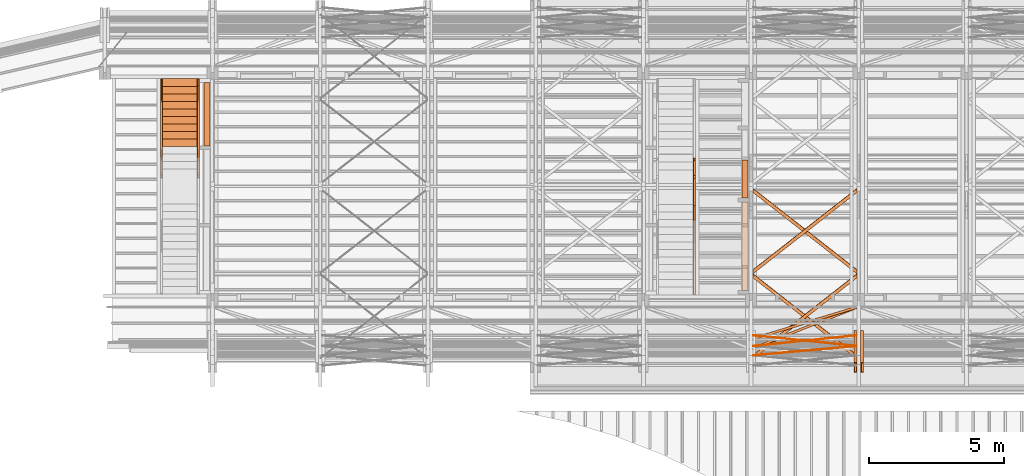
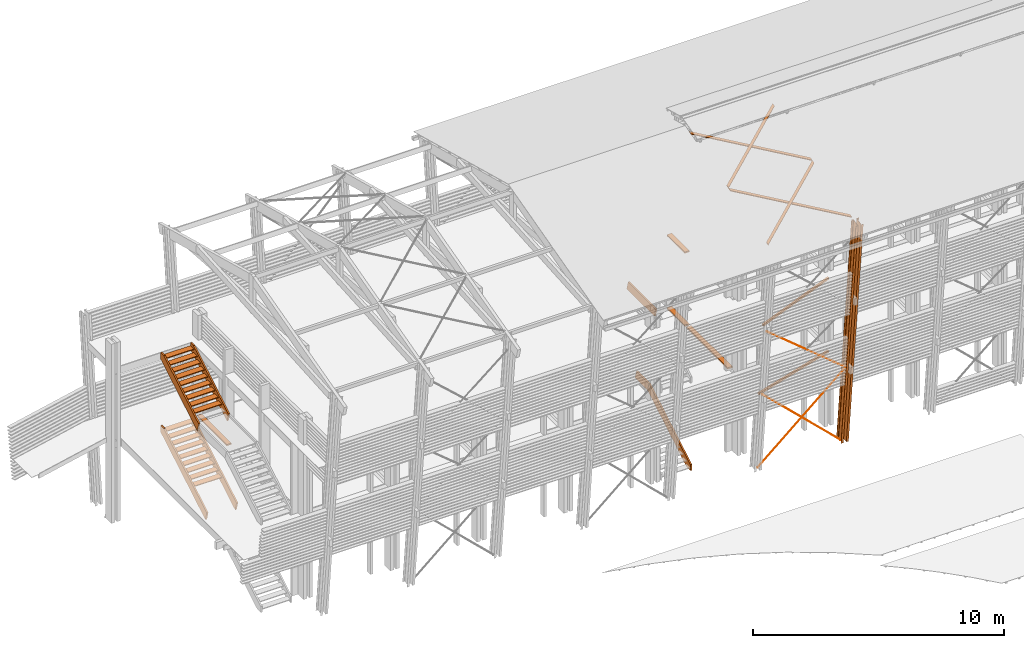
# One storey, part 38 of 48: 40 proxies.
"""IFC2X3 building model written with IfcOpenShell, lengths in metres."""

import ifcopenshell
import ifcopenshell.guid

model = None  # the IFC model being written
_history = None  # IfcOwnerHistory: only IFC2X3 demands one
_inside = {}  # id of a spatial element -> (the spatial element, [elements in it])
_under = {}  # id of a project, library or spatial element -> (it, [spatial elements below it])
_declared = {}  # id of a project -> (the project, [libraries it declares])
_typed = {}  # id of a type object -> (the type object, [elements of that type])
_made_of = {}  # id of a material, layer set ... -> (it, [elements and type objects made of it])


def new_model(schema):
    """Start an empty IFC model of exactly this schema.

    Asked for "IFC4X3", IfcOpenShell would pick the latest addendum, in which some entities
    have other attributes; the version numbers below select the first issue.
    IFC2X3 requires an IfcOwnerHistory on every rooted entity: one is made here for all.
    """
    global model, _history
    if schema == "IFC4X3":
        model = ifcopenshell.file(schema_version=(4, 3, 0, 0))
    else:
        model = ifcopenshell.file(schema=schema)
    _inside.clear()
    _under.clear()
    _declared.clear()
    _typed.clear()
    _made_of.clear()
    _history = None
    if model.schema == "IFC2X3":
        org = make("IfcOrganization", Name="unknown")
        user = make(
            "IfcPersonAndOrganization",
            ThePerson=make("IfcPerson", FamilyName="unknown"),
            TheOrganization=org,
        )
        app = make(
            "IfcApplication",
            ApplicationDeveloper=org,
            Version="unknown",
            ApplicationFullName="unknown",
            ApplicationIdentifier="unknown",
        )
        _history = make(
            "IfcOwnerHistory",
            OwningUser=user,
            OwningApplication=app,
            ChangeAction="ADDED",
            CreationDate=0,
        )
    return model


def make(cls, **values):
    """One entity of the class cls with the attributes given. An attribute that is None is left unset."""
    return model.create_entity(
        cls, **{name: value for name, value in values.items() if value is not None}
    )


def rooted(cls, **values):
    """An entity with a GlobalId (a new one), such as an element, a storey or a relation."""
    return make(cls, GlobalId=ifcopenshell.guid.new(), OwnerHistory=_history, **values)


def si_unit(unit_type, name, prefix=None):
    """IfcSIUnit, for example si_unit("LENGTHUNIT", "METRE", prefix="MILLI")."""
    return make("IfcSIUnit", UnitType=unit_type, Prefix=prefix, Name=name)


def assignment(units):
    """IfcUnitAssignment: the units of a project."""
    return None if units is None else make("IfcUnitAssignment", Units=units)


def point(xyz):
    """IfcCartesianPoint."""
    return None if xyz is None else make("IfcCartesianPoint", Coordinates=xyz)


def direction(xyz):
    """IfcDirection."""
    return None if xyz is None else make("IfcDirection", DirectionRatios=xyz)


def frame(location, z_axis=None, x_axis=None):
    """IfcAxis2Placement3D, a coordinate frame: its origin and axes. An axis left out is left unset."""
    return make(
        "IfcAxis2Placement3D",
        Location=point(location),
        Axis=direction(z_axis),
        RefDirection=direction(x_axis),
    )


def origin_with_axes():
    """The frame at (0, 0, 0) with the z axis (0, 0, 1) and the x axis (1, 0, 0) written out."""
    return frame((0.0, 0.0, 0.0), z_axis=(0.0, 0.0, 1.0), x_axis=(1.0, 0.0, 0.0))


def place(relative_to, where):
    """IfcLocalPlacement: puts the frame where relative to a parent placement (None: the world)."""
    return make(
        "IfcLocalPlacement", PlacementRelTo=relative_to, RelativePlacement=where
    )


def context(
    kind, dimensions, precision=None, world=None, true_north=None, identifier=None
):
    """IfcGeometricRepresentationContext, for example the 3D "Model" context."""
    return make(
        "IfcGeometricRepresentationContext",
        ContextIdentifier=identifier,
        ContextType=kind,
        CoordinateSpaceDimension=dimensions,
        Precision=precision,
        WorldCoordinateSystem=world,
        TrueNorth=true_north,
    )


def subcontext(parent, identifier, kind, view, scale=None):
    """IfcGeometricRepresentationSubContext, for example "Body" below "Model"."""
    return make(
        "IfcGeometricRepresentationSubContext",
        ContextIdentifier=identifier,
        ContextType=kind,
        ParentContext=parent,
        TargetScale=scale,
        TargetView=view,
    )


def project(units=None, contexts=None):
    """IfcProject with its units and contexts."""
    return rooted(
        "IfcProject",
        Name="project",
        RepresentationContexts=contexts,
        UnitsInContext=assignment(units),
    )


def spatial(cls, under=None, at=None, **own):
    """A site, building, storey or space (cls), placed at a placement, below another one or the project."""
    s = rooted(cls, ObjectPlacement=at, **own)
    if under is not None:
        _under.setdefault(under.id(), (under, []))[1].append(s)
    return s


def faces_of(points, faces, orient=None, outer=None):
    """IfcFace entities. A face is a list of loops; a loop is a list of indices into points, from 0.

    orient and outer hold one flag for each loop. By default every Orientation is true, the
    first loop of a face is its IfcFaceOuterBound and the others are IfcFaceBound.
    """
    made = []
    for i, loops in enumerate(faces):
        bounds = []
        for j, loop in enumerate(loops):
            is_outer = j == 0 if outer is None else outer[i][j]
            bounds.append(
                make(
                    "IfcFaceOuterBound" if is_outer else "IfcFaceBound",
                    Bound=make("IfcPolyLoop", Polygon=[points[k] for k in loop]),
                    Orientation=True if orient is None else orient[i][j],
                )
            )
        made.append(make("IfcFace", Bounds=bounds))
    return made


def faceted_brep(points, faces, orient=None, outer=None, voids=None):
    """IfcFacetedBrep: a solid bounded by flat faces; with voids (closed shells), ...WithVoids."""
    shared = [point(p) for p in points]
    hull = make("IfcClosedShell", CfsFaces=faces_of(shared, faces, orient, outer))
    if voids is None:
        return make("IfcFacetedBrep", Outer=hull)
    return make(
        "IfcFacetedBrepWithVoids",
        Outer=hull,
        Voids=[
            make(cls, CfsFaces=faces_of(shared, fs, o, b)) for cls, fs, o, b in voids
        ],
    )


def shape(context_of_items, identifier, shape_type, items):
    """IfcShapeRepresentation: the items that make up one representation, for example the "Body"."""
    return make(
        "IfcShapeRepresentation",
        ContextOfItems=context_of_items,
        RepresentationIdentifier=identifier,
        RepresentationType=shape_type,
        Items=items,
    )


def material(Name=None, Category=None):
    """IfcMaterial."""
    return make("IfcMaterial", Name=Name, Category=Category)


def made_of(thing, what):
    """Note that an element or type object is made of a material, layer set ...; save() writes the relation."""
    if what is not None:
        _made_of.setdefault(what.id(), (what, []))[1].append(thing)
    return thing


def element(
    cls,
    number,
    at=None,
    inside=None,
    cuts=None,
    type_object=None,
    material=None,
    context=None,
    identifier="Body",
    shape_type=None,
    held_by="IfcProductDefinitionShape",
    body=None,
    shapes=None,
    **own,
):
    """One element of the class cls, such as IfcWall. Its Tag is "e" and its number.

    at: its placement. inside: the storey or other place that contains it. cuts: it is an
    opening in that element (IfcRelVoidsElement). A single representation is given by context,
    identifier, shape_type and body (its items); several are given by shapes. held_by: the class
    of the entity that holds the representations. save() writes the other relations.
    """
    e = rooted(cls, Tag="e%d" % number, ObjectPlacement=at, **own)
    if body is not None:
        shapes = [shape(context, identifier, shape_type, body)]
    if shapes is not None:
        e.Representation = make(held_by, Representations=shapes)
    if inside is not None:
        _inside.setdefault(inside.id(), (inside, []))[1].append(e)
    if cuts is not None:
        rooted(
            "IfcRelVoidsElement", RelatingBuildingElement=cuts, RelatedOpeningElement=e
        )
    if type_object is not None:
        _typed.setdefault(type_object.id(), (type_object, []))[1].append(e)
    return made_of(e, material)


def aggregate(whole, parts):
    """IfcRelAggregates: a whole, such as a stair, and the parts it consists of."""
    return rooted("IfcRelAggregates", RelatingObject=whole, RelatedObjects=parts)


def save(model, path):
    """Write the relations noted so far, then the file.

    IfcRelAggregates (storeys below a building ...), IfcRelContainedInSpatialStructure (elements
    in a storey), IfcRelDefinesByType, IfcRelAssociatesMaterial and IfcRelDeclares: one each for
    every whole, place, type object, material and project.
    """
    for whole, parts in _under.values():
        aggregate(whole, parts)
    for where, things in _inside.values():
        rooted(
            "IfcRelContainedInSpatialStructure",
            RelatedElements=things,
            RelatingStructure=where,
        )
    for kind, things in _typed.values():
        rooted("IfcRelDefinesByType", RelatedObjects=things, RelatingType=kind)
    for what, things in _made_of.values():
        rooted("IfcRelAssociatesMaterial", RelatedObjects=things, RelatingMaterial=what)
    for by, libraries in _declared.values():
        rooted("IfcRelDeclares", RelatingContext=by, RelatedDefinitions=libraries)
    model.write(path)


model = new_model("IFC2X3")

# Units and contexts
model_context = context("Model", 3, precision=1e-06, world=origin_with_axes(), true_north=direction((0.0, 1.0, 0.0)))
body_context = subcontext(model_context, "Body", "Model", "MODEL_VIEW")
ifc_project = project(units=[si_unit("LENGTHUNIT", "METRE"), si_unit("AREAUNIT", "SQUARE_METRE"), si_unit("VOLUMEUNIT", "CUBIC_METRE"), si_unit("PLANEANGLEUNIT", "RADIAN")], contexts=[model_context])

# Site, building, storey
site_placement = place(None, origin_with_axes())
site = spatial("IfcSite", under=ifc_project, at=site_placement, CompositionType="ELEMENT")
building_placement = place(site_placement, origin_with_axes())
building = spatial("IfcBuilding", under=site, at=building_placement, Name="Building 1", CompositionType="ELEMENT")
storey_placement = place(building_placement, origin_with_axes())
storey = spatial("IfcBuildingStorey", under=building, at=storey_placement, Name="Storey 1", CompositionType="ELEMENT", Elevation=0.0)

# Proxies
ifc_material_1 = material(Name="Acier")
proxy_1_placement = place(storey_placement, frame((49.4057441, -195.1364145, 4.089), z_axis=(0.6523288, -0.0792259, 0.753784), x_axis=(-0.7579361, -0.0681869, 0.6487553)))
element("IfcBuildingElementProxy", 1, at=proxy_1_placement, inside=storey, material=ifc_material_1, Name="CVLP", context=body_context, shape_type="Brep", body=[
    faceted_brep([(5.0558353, -0.0093969, 0.0034202), (0.0, -0.01, 0.0), (5.0558353, -0.01, 0.0), (0.0, -0.0093969, -0.0034202), (5.0558353, -0.0093969, -0.0034202), (0.0, -0.0076604, -0.0064279), (5.0558353, -0.0076604, -0.0064279), (0.0, -0.005, -0.0086603), (5.0558353, -0.005, -0.0086603), (0.0, -0.0017365, -0.0098481), (5.0558353, -0.0017365, -0.0098481), (0.0, 0.0017365, -0.0098481), (5.0558353, 0.0017365, -0.0098481), (0.0, 0.005, -0.0086603), (5.0558353, 0.005, -0.0086603), (0.0, 0.0076604, -0.0064279), (5.0558353, 0.0076604, -0.0064279), (0.0, 0.0093969, -0.0034202), (5.0558353, 0.0093969, -0.0034202), (0.0, 0.01, 0.0), (5.0558353, 0.01, 0.0), (0.0, 0.0093969, 0.0034202), (5.0558353, 0.0093969, 0.0034202), (0.0, 0.0076604, 0.0064279), (5.0558353, 0.0076604, 0.0064279), (0.0, 0.005, 0.0086603), (5.0558353, 0.005, 0.0086603), (0.0, 0.0017365, 0.0098481), (5.0558353, 0.0017365, 0.0098481), (0.0, -0.0017365, 0.0098481), (5.0558353, -0.0017365, 0.0098481), (0.0, -0.005, 0.0086603), (5.0558353, -0.005, 0.0086603), (0.0, -0.0076604, 0.0064279), (5.0558353, -0.0076604, 0.0064279), (0.0, -0.0093969, 0.0034202)], [[[0, 1, 2]], [[2, 1, 3]], [[2, 3, 4]], [[4, 3, 5]], [[4, 5, 6]], [[6, 5, 7]], [[6, 7, 8]], [[8, 7, 9]], [[8, 9, 10]], [[10, 9, 11]], [[10, 11, 12]], [[12, 11, 13]], [[12, 13, 14]], [[14, 13, 15]], [[14, 15, 16]], [[16, 15, 17]], [[16, 17, 18]], [[18, 17, 19]], [[18, 19, 20]], [[20, 19, 21]], [[20, 21, 22]], [[22, 21, 23]], [[22, 23, 24]], [[24, 23, 25]], [[24, 25, 26]], [[26, 25, 27]], [[26, 27, 28]], [[28, 27, 29]], [[28, 29, 30]], [[30, 29, 31]], [[30, 31, 32]], [[32, 31, 33]], [[32, 33, 34]], [[34, 33, 35]], [[34, 35, 0]], [[0, 35, 1]], [[10, 12, 8]], [[8, 12, 14]], [[8, 14, 6]], [[6, 14, 16]], [[6, 16, 4]], [[4, 16, 18]], [[4, 18, 2]], [[2, 18, 20]], [[2, 20, 0]], [[0, 20, 22]], [[0, 22, 34]], [[34, 22, 24]], [[34, 24, 32]], [[32, 24, 26]], [[32, 26, 30]], [[30, 26, 28]], [[29, 27, 31]], [[31, 27, 25]], [[31, 25, 33]], [[33, 25, 23]], [[33, 23, 35]], [[35, 23, 21]], [[35, 21, 1]], [[1, 21, 19]], [[1, 19, 3]], [[3, 19, 17]], [[3, 17, 5]], [[5, 17, 15]], [[5, 15, 7]], [[7, 15, 13]], [[7, 13, 9]], [[9, 13, 11]]]),
])
proxy_2_placement = place(storey_placement, frame((49.4057433, -194.7381746, 0.3), z_axis=(0.7050562, -0.0741265, 0.7052666), x_axis=(-0.7091514, -0.0736984, 0.7011938)))
element("IfcBuildingElementProxy", 2, at=proxy_2_placement, inside=storey, material=ifc_material_1, Name="CVLP", context=body_context, shape_type="Brep", body=[
    faceted_brep([(5.4036414, 0.0093969, -0.0034202), (0.0, 0.01, 0.0), (5.4036414, 0.01, 0.0), (0.0, 0.0093969, 0.0034202), (5.4036414, 0.0093969, 0.0034202), (0.0, 0.0076604, 0.0064279), (5.4036414, 0.0076604, 0.0064279), (0.0, 0.005, 0.0086603), (5.4036414, 0.005, 0.0086603), (0.0, 0.0017365, 0.0098481), (5.4036414, 0.0017365, 0.0098481), (0.0, -0.0017365, 0.0098481), (5.4036414, -0.0017365, 0.0098481), (0.0, -0.005, 0.0086603), (5.4036414, -0.005, 0.0086603), (0.0, -0.0076604, 0.0064279), (5.4036414, -0.0076604, 0.0064279), (0.0, -0.0093969, 0.0034202), (5.4036414, -0.0093969, 0.0034202), (0.0, -0.01, 0.0), (5.4036414, -0.01, 0.0), (0.0, -0.0093969, -0.0034202), (5.4036414, -0.0093969, -0.0034202), (0.0, -0.0076604, -0.0064279), (5.4036414, -0.0076604, -0.0064279), (0.0, -0.005, -0.0086603), (5.4036414, -0.005, -0.0086603), (0.0, -0.0017365, -0.0098481), (5.4036414, -0.0017365, -0.0098481), (0.0, 0.0017365, -0.0098481), (5.4036414, 0.0017365, -0.0098481), (0.0, 0.005, -0.0086603), (5.4036414, 0.005, -0.0086603), (0.0, 0.0076604, -0.0064279), (5.4036414, 0.0076604, -0.0064279), (0.0, 0.0093969, -0.0034202)], [[[0, 1, 2]], [[2, 1, 3]], [[2, 3, 4]], [[4, 3, 5]], [[4, 5, 6]], [[6, 5, 7]], [[6, 7, 8]], [[8, 7, 9]], [[8, 9, 10]], [[10, 9, 11]], [[10, 11, 12]], [[12, 11, 13]], [[12, 13, 14]], [[14, 13, 15]], [[14, 15, 16]], [[16, 15, 17]], [[16, 17, 18]], [[18, 17, 19]], [[18, 19, 20]], [[20, 19, 21]], [[20, 21, 22]], [[22, 21, 23]], [[22, 23, 24]], [[24, 23, 25]], [[24, 25, 26]], [[26, 25, 27]], [[26, 27, 28]], [[28, 27, 29]], [[28, 29, 30]], [[30, 29, 31]], [[30, 31, 32]], [[32, 31, 33]], [[32, 33, 34]], [[34, 33, 35]], [[34, 35, 0]], [[0, 35, 1]], [[10, 12, 8]], [[8, 12, 14]], [[8, 14, 6]], [[6, 14, 16]], [[6, 16, 4]], [[4, 16, 18]], [[4, 18, 2]], [[2, 18, 20]], [[2, 20, 0]], [[0, 20, 22]], [[0, 22, 34]], [[34, 22, 24]], [[34, 24, 32]], [[32, 24, 26]], [[32, 26, 30]], [[30, 26, 28]], [[29, 27, 31]], [[31, 27, 25]], [[31, 25, 33]], [[33, 25, 23]], [[33, 23, 35]], [[35, 23, 21]], [[35, 21, 1]], [[1, 21, 19]], [[1, 19, 3]], [[3, 19, 17]], [[3, 17, 5]], [[5, 17, 15]], [[5, 15, 7]], [[7, 15, 13]], [[7, 13, 9]], [[9, 13, 11]]]),
])
proxy_3_placement = place(storey_placement, frame((45.5737441, -194.7381746, 0.3), z_axis=(-0.7050562, -0.0741265, 0.7052666), x_axis=(0.7091514, -0.0736984, 0.7011938)))
element("IfcBuildingElementProxy", 3, at=proxy_3_placement, inside=storey, material=ifc_material_1, Name="CVLP", context=body_context, shape_type="Brep", body=[
    faceted_brep([(5.4036414, -0.0093969, 0.0034202), (0.0, -0.01, 0.0), (5.4036414, -0.01, 0.0), (0.0, -0.0093969, -0.0034202), (5.4036414, -0.0093969, -0.0034202), (0.0, -0.0076604, -0.0064279), (5.4036414, -0.0076604, -0.0064279), (0.0, -0.005, -0.0086603), (5.4036414, -0.005, -0.0086603), (0.0, -0.0017365, -0.0098481), (5.4036414, -0.0017365, -0.0098481), (0.0, 0.0017365, -0.0098481), (5.4036414, 0.0017365, -0.0098481), (0.0, 0.005, -0.0086603), (5.4036414, 0.005, -0.0086603), (0.0, 0.0076604, -0.0064279), (5.4036414, 0.0076604, -0.0064279), (0.0, 0.0093969, -0.0034202), (5.4036414, 0.0093969, -0.0034202), (0.0, 0.01, 0.0), (5.4036414, 0.01, 0.0), (0.0, 0.0093969, 0.0034202), (5.4036414, 0.0093969, 0.0034202), (0.0, 0.0076604, 0.0064279), (5.4036414, 0.0076604, 0.0064279), (0.0, 0.005, 0.0086603), (5.4036414, 0.005, 0.0086603), (0.0, 0.0017365, 0.0098481), (5.4036414, 0.0017365, 0.0098481), (0.0, -0.0017365, 0.0098481), (5.4036414, -0.0017365, 0.0098481), (0.0, -0.005, 0.0086603), (5.4036414, -0.005, 0.0086603), (0.0, -0.0076604, 0.0064279), (5.4036414, -0.0076604, 0.0064279), (0.0, -0.0093969, 0.0034202)], [[[0, 1, 2]], [[2, 1, 3]], [[2, 3, 4]], [[4, 3, 5]], [[4, 5, 6]], [[6, 5, 7]], [[6, 7, 8]], [[8, 7, 9]], [[8, 9, 10]], [[10, 9, 11]], [[10, 11, 12]], [[12, 11, 13]], [[12, 13, 14]], [[14, 13, 15]], [[14, 15, 16]], [[16, 15, 17]], [[16, 17, 18]], [[18, 17, 19]], [[18, 19, 20]], [[20, 19, 21]], [[20, 21, 22]], [[22, 21, 23]], [[22, 23, 24]], [[24, 23, 25]], [[24, 25, 26]], [[26, 25, 27]], [[26, 27, 28]], [[28, 27, 29]], [[28, 29, 30]], [[30, 29, 31]], [[30, 31, 32]], [[32, 31, 33]], [[32, 33, 34]], [[34, 33, 35]], [[34, 35, 0]], [[0, 35, 1]], [[10, 12, 8]], [[8, 12, 14]], [[8, 14, 6]], [[6, 14, 16]], [[6, 16, 4]], [[4, 16, 18]], [[4, 18, 2]], [[2, 18, 20]], [[2, 20, 0]], [[0, 20, 22]], [[0, 22, 34]], [[34, 22, 24]], [[34, 24, 32]], [[32, 24, 26]], [[32, 26, 30]], [[30, 26, 28]], [[29, 27, 31]], [[31, 27, 25]], [[31, 25, 33]], [[33, 25, 23]], [[33, 23, 35]], [[35, 23, 21]], [[35, 21, 1]], [[1, 21, 19]], [[1, 19, 3]], [[3, 19, 17]], [[3, 17, 5]], [[5, 17, 15]], [[5, 15, 7]], [[7, 15, 13]], [[7, 13, 9]], [[9, 13, 11]]]),
])
ifc_material_2 = material(Name="GL28h")
proxy_4_placement = place(storey_placement, frame((24.9647437, -188.8892391, 2.0173077), z_axis=(0.0, -0.5076923, 0.8615385), x_axis=(0.0, 0.8615385, 0.5076923)))
element("IfcBuildingElementProxy", 4, at=proxy_4_placement, inside=storey, material=ifc_material_2, Name="limon", context=body_context, shape_type="Brep", body=[
    faceted_brep([(0.0, 0.035, -0.2), (0.0, -0.035, -0.2), (0.1090909, -0.035, 0.2), (0.1090909, 0.035, 0.2), (4.1567645, -0.035, -0.2), (4.3165062, -0.035, 0.0710767), (4.0977273, -0.035, 0.2), (4.1567645, 0.035, -0.2), (4.0977273, 0.035, 0.2), (4.3165062, 0.035, 0.0710767)], [[[0, 1, 2, 3]], [[2, 1, 4, 5, 6]], [[1, 0, 7, 4]], [[0, 3, 8, 9, 7]], [[3, 2, 6, 8]], [[5, 9, 8, 6]], [[9, 5, 4, 7]]]),
])
proxy_5_placement = place(storey_placement, frame((49.6107437, -195.9301471, 11.6408612), z_axis=(0.0, 0.9945219, 0.1045285), x_axis=(0.0, 0.1045285, -0.9945219)))
element("IfcBuildingElementProxy", 5, at=proxy_5_placement, inside=storey, material=ifc_material_1, Name="Poteau", context=body_context, shape_type="Brep", body=[
    faceted_brep([(0.0556479, 0.0367655, -0.161347), (0.0548889, 0.0375, -0.156555), (0.0601861, 0.051, -0.19), (0.0052972, 0.0375, 0.156555), (0.0, 0.051, 0.19), (0.0045382, 0.0367655, 0.161347), (0.0038489, 0.0346296, 0.165699), (0.0592057, -0.051, -0.18381), (0.0579402, -0.0433995, -0.17582), (0.0601861, -0.051, -0.19), (0.0574199, 0.022299, -0.172535), (0.0572658, 0.0270483, -0.1715622), (0.0568935, 0.0312883, -0.1692116), (0.0588262, -0.0506328, -0.181414), (0.0584816, -0.0495648, -0.179238), (0.0582034, -0.0478941, -0.1774817), (0.0580172, -0.0457742, -0.1763064), (0.0563372, 0.0346296, -0.165699), (0.0032926, 0.0312883, 0.1692116), (0.0029203, 0.0270483, 0.1715622), (0.0027662, 0.022299, 0.172535), (0.0, -0.051, 0.19), (0.0022459, -0.0433995, 0.17582), (0.0009804, -0.051, 0.18381), (0.0013599, -0.0506328, 0.181414), (0.0021689, -0.0457742, 0.1763064), (0.0019827, -0.0478941, 0.1774817), (0.0017045, -0.0495648, 0.179238), (11.420672, 0.0375, -0.156555), (11.420672, 0.0367655, -0.161347), (11.420672, 0.0346296, -0.165699), (11.420672, 0.0312883, -0.1692116), (11.420672, 0.0270483, -0.1715622), (11.420672, 0.022299, -0.172535), (11.420672, -0.0433995, -0.17582), (11.420672, -0.0457742, -0.1763064), (11.420672, -0.0478941, -0.1774817), (11.420672, -0.0495648, -0.179238), (11.420672, -0.0506328, -0.181414), (11.420672, -0.051, -0.18381), (11.420672, -0.051, -0.19), (11.420672, 0.051, -0.19), (11.420672, 0.051, 0.19), (11.420672, -0.051, 0.19), (11.420672, -0.051, 0.18381), (11.420672, -0.0506328, 0.181414), (11.420672, -0.0495648, 0.179238), (11.420672, -0.0478941, 0.1774817), (11.420672, -0.0457742, 0.1763064), (11.420672, -0.0433995, 0.17582), (11.420672, 0.022299, 0.172535), (11.420672, 0.0270483, 0.1715622), (11.420672, 0.0312883, 0.1692116), (11.420672, 0.0346296, 0.165699), (11.420672, 0.0367655, 0.161347), (11.420672, 0.0375, 0.156555)], [[[0, 1, 2]], [[2, 1, 3]], [[2, 3, 4]], [[4, 3, 5]], [[4, 5, 6]], [[7, 8, 9]], [[9, 8, 10]], [[9, 10, 2]], [[2, 10, 11]], [[2, 11, 12]], [[7, 13, 8]], [[8, 13, 14]], [[8, 14, 15]], [[15, 16, 8]], [[12, 17, 2]], [[2, 17, 0]], [[6, 18, 4]], [[4, 18, 19]], [[4, 19, 20]], [[4, 20, 21]], [[21, 20, 22]], [[21, 22, 23]], [[23, 22, 24]], [[25, 26, 22]], [[22, 26, 27]], [[22, 27, 24]], [[1, 0, 28]], [[28, 0, 29]], [[0, 17, 29]], [[29, 17, 30]], [[17, 12, 30]], [[30, 12, 31]], [[12, 11, 31]], [[31, 11, 32]], [[11, 10, 32]], [[32, 10, 33]], [[10, 8, 33]], [[33, 8, 34]], [[8, 16, 34]], [[34, 16, 35]], [[16, 15, 35]], [[35, 15, 36]], [[15, 14, 36]], [[36, 14, 37]], [[14, 13, 37]], [[37, 13, 38]], [[13, 7, 38]], [[38, 7, 39]], [[7, 9, 39]], [[39, 9, 40]], [[9, 2, 40]], [[40, 2, 41]], [[4, 42, 2]], [[2, 42, 41]], [[43, 42, 21]], [[21, 42, 4]], [[21, 23, 43]], [[43, 23, 44]], [[23, 24, 44]], [[44, 24, 45]], [[24, 27, 45]], [[45, 27, 46]], [[27, 26, 46]], [[46, 26, 47]], [[26, 25, 47]], [[47, 25, 48]], [[25, 22, 48]], [[48, 22, 49]], [[22, 20, 49]], [[49, 20, 50]], [[20, 19, 50]], [[50, 19, 51]], [[19, 18, 51]], [[51, 18, 52]], [[18, 6, 52]], [[52, 6, 53]], [[6, 5, 53]], [[53, 5, 54]], [[5, 3, 54]], [[54, 3, 55]], [[3, 1, 55]], [[55, 1, 28]], [[53, 54, 42]], [[42, 54, 55]], [[42, 55, 41]], [[41, 55, 28]], [[41, 28, 29]], [[44, 49, 43]], [[43, 49, 50]], [[43, 50, 42]], [[42, 50, 51]], [[42, 51, 52]], [[44, 45, 49]], [[49, 45, 46]], [[49, 46, 47]], [[47, 48, 49]], [[52, 53, 42]], [[29, 30, 41]], [[41, 30, 31]], [[41, 31, 32]], [[32, 33, 41]], [[41, 33, 40]], [[33, 34, 40]], [[40, 34, 39]], [[34, 35, 39]], [[39, 35, 36]], [[39, 36, 37]], [[37, 38, 39]]]),
])
proxy_6_placement = place(storey_placement, frame((49.3687437, -195.9301471, 11.6408612), z_axis=(0.0, 0.9945219, 0.1045285), x_axis=(0.0, 0.1045285, -0.9945219)))
element("IfcBuildingElementProxy", 6, at=proxy_6_placement, inside=storey, material=ifc_material_1, Name="Poteau", context=body_context, shape_type="Brep", body=[
    faceted_brep([(0.0588262, 0.0506328, -0.181414), (0.0592057, 0.051, -0.18381), (0.0579402, 0.0433995, -0.17582), (0.0601861, 0.051, -0.19), (0.0574199, -0.022299, -0.172535), (0.0601861, -0.051, -0.19), (0.0572658, -0.0270483, -0.1715622), (0.0568935, -0.0312883, -0.1692116), (0.0038489, -0.0346296, 0.165699), (0.0045382, -0.0367655, 0.161347), (0.0, -0.051, 0.19), (0.0052972, -0.0375, 0.156555), (0.0548889, -0.0375, -0.156555), (0.0556479, -0.0367655, -0.161347), (0.0009804, 0.051, 0.18381), (0.0022459, 0.0433995, 0.17582), (0.0, 0.051, 0.19), (0.0027662, -0.022299, 0.172535), (0.0029203, -0.0270483, 0.1715622), (0.0032926, -0.0312883, 0.1692116), (0.0013599, 0.0506328, 0.181414), (0.0017045, 0.0495648, 0.179238), (0.0019827, 0.0478941, 0.1774817), (0.0021689, 0.0457742, 0.1763064), (0.0563372, -0.0346296, -0.165699), (0.0580172, 0.0457742, -0.1763064), (0.0582034, 0.0478941, -0.1774817), (0.0584816, 0.0495648, -0.179238), (11.420672, 0.0433995, 0.17582), (11.420672, 0.0457742, 0.1763064), (11.420672, 0.0478941, 0.1774817), (11.420672, 0.0495648, 0.179238), (11.420672, 0.0506328, 0.181414), (11.420672, 0.051, 0.18381), (11.420672, 0.051, 0.19), (11.420672, -0.051, 0.19), (11.420672, -0.051, -0.19), (11.420672, 0.051, -0.19), (11.420672, 0.051, -0.18381), (11.420672, 0.0506328, -0.181414), (11.420672, 0.0495648, -0.179238), (11.420672, 0.0478941, -0.1774817), (11.420672, 0.0457742, -0.1763064), (11.420672, 0.0433995, -0.17582), (11.420672, -0.022299, -0.172535), (11.420672, -0.0270483, -0.1715622), (11.420672, -0.0312883, -0.1692116), (11.420672, -0.0346296, -0.165699), (11.420672, -0.0367655, -0.161347), (11.420672, -0.0375, -0.156555), (11.420672, -0.0375, 0.156555), (11.420672, -0.0367655, 0.161347), (11.420672, -0.0346296, 0.165699), (11.420672, -0.0312883, 0.1692116), (11.420672, -0.0270483, 0.1715622), (11.420672, -0.022299, 0.172535)], [[[0, 1, 2]], [[2, 1, 3]], [[2, 3, 4]], [[4, 3, 5]], [[4, 5, 6]], [[6, 5, 7]], [[8, 9, 10]], [[10, 9, 11]], [[10, 11, 5]], [[5, 11, 12]], [[5, 12, 13]], [[14, 15, 16]], [[16, 15, 17]], [[16, 17, 10]], [[10, 17, 18]], [[10, 18, 19]], [[14, 20, 15]], [[15, 20, 21]], [[15, 21, 22]], [[22, 23, 15]], [[19, 8, 10]], [[13, 24, 5]], [[5, 24, 7]], [[25, 26, 2]], [[2, 26, 27]], [[2, 27, 0]], [[15, 23, 28]], [[28, 23, 29]], [[23, 22, 29]], [[29, 22, 30]], [[22, 21, 30]], [[30, 21, 31]], [[21, 20, 31]], [[31, 20, 32]], [[20, 14, 32]], [[32, 14, 33]], [[16, 34, 14]], [[14, 34, 33]], [[10, 5, 35]], [[35, 5, 36]], [[5, 3, 36]], [[36, 3, 37]], [[1, 38, 3]], [[3, 38, 37]], [[1, 0, 38]], [[38, 0, 39]], [[0, 27, 39]], [[39, 27, 40]], [[27, 26, 40]], [[40, 26, 41]], [[26, 25, 41]], [[41, 25, 42]], [[25, 2, 42]], [[42, 2, 43]], [[4, 44, 2]], [[2, 44, 43]], [[4, 6, 44]], [[44, 6, 45]], [[6, 7, 45]], [[45, 7, 46]], [[7, 24, 46]], [[46, 24, 47]], [[24, 13, 47]], [[47, 13, 48]], [[13, 12, 48]], [[48, 12, 49]], [[11, 50, 12]], [[12, 50, 49]], [[11, 9, 50]], [[50, 9, 51]], [[9, 8, 51]], [[51, 8, 52]], [[8, 19, 52]], [[52, 19, 53]], [[19, 18, 53]], [[53, 18, 54]], [[18, 17, 54]], [[54, 17, 55]], [[15, 28, 17]], [[17, 28, 55]], [[35, 34, 10]], [[10, 34, 16]], [[48, 49, 36]], [[36, 49, 50]], [[36, 50, 35]], [[35, 50, 51]], [[35, 51, 52]], [[41, 42, 38]], [[38, 42, 43]], [[38, 43, 37]], [[37, 43, 44]], [[37, 44, 36]], [[36, 44, 45]], [[36, 45, 46]], [[39, 40, 38]], [[38, 40, 41]], [[46, 47, 36]], [[36, 47, 48]], [[52, 53, 35]], [[35, 53, 54]], [[35, 54, 55]], [[35, 55, 34]], [[34, 55, 28]], [[34, 28, 33]], [[33, 28, 32]], [[29, 30, 28]], [[28, 30, 31]], [[28, 31, 32]]]),
])
ifc_material_3 = material(Name="Moabi")
proxy_7_placement = place(storey_placement, frame((24.9297437, -187.5864885, 2.785), z_axis=(0.0, 1.0, 0.0), x_axis=(-1.0, 0.0, 0.0)))
element("IfcBuildingElementProxy", 7, at=proxy_7_placement, inside=storey, material=ifc_material_3, Name="marche", context=body_context, shape_type="Brep", body=[
    faceted_brep([(0.0, 0.02, 0.14), (0.0, 0.02, -0.14), (0.0, -0.02, -0.14), (0.0, -0.02, 0.14), (1.3, 0.02, -0.14), (1.3, -0.02, -0.14), (1.3, 0.02, 0.14), (1.3, -0.02, 0.14)], [[[0, 1, 2, 3]], [[1, 4, 5, 2]], [[4, 6, 7, 5]], [[6, 0, 3, 7]], [[1, 0, 6, 4]], [[7, 3, 2, 5]]]),
])
proxy_8_placement = place(storey_placement, frame((43.3847437, -188.8077002, 2.045), z_axis=(0.0, 0.0, 1.0), x_axis=(0.0, -1.0, 0.0)))
element("IfcBuildingElementProxy", 8, at=proxy_8_placement, inside=storey, material=ifc_material_2, Name="limon", context=body_context, shape_type="Brep", body=[
    faceted_brep([(0.0, -0.035, -0.2), (0.1090909, -0.035, 0.2), (0.1090909, 0.035, 0.2), (0.0, 0.035, -0.2), (1.1122539, -0.035, 0.2), (1.1122539, 0.035, 0.2), (1.003163, -0.035, -0.2), (1.003163, 0.035, -0.2)], [[[0, 1, 2, 3]], [[2, 1, 4, 5]], [[1, 0, 6, 4]], [[5, 4, 6, 7]], [[0, 3, 7, 6]], [[3, 2, 5, 7]]]),
])
proxy_9_placement = place(storey_placement, frame((24.2797437, -187.5864881, 6.325), z_axis=(0.0, 1.0, 0.0), x_axis=(0.0, 0.0, 1.0)))
element("IfcBuildingElementProxy", 9, at=proxy_9_placement, inside=storey, material=ifc_material_3, Name="marche", context=body_context, shape_type="Brep", body=[
    faceted_brep([(0.04, 0.65, 0.14), (0.04, 0.65, -0.14), (0.0, 0.65, -0.14), (0.0, 0.65, 0.14), (0.04, -0.65, -0.14), (0.0, -0.65, -0.14), (0.04, -0.65, 0.14), (0.0, -0.65, 0.14)], [[[0, 1, 2, 3]], [[1, 4, 5, 2]], [[4, 6, 7, 5]], [[6, 0, 3, 7]], [[1, 0, 6, 4]], [[7, 3, 2, 5]]]),
])
proxy_10_placement = place(storey_placement, frame((43.3847437, -188.1428517, 5.985), z_axis=(0.0, 0.0, 1.0), x_axis=(0.0, -1.0, 0.0)))
element("IfcBuildingElementProxy", 10, at=proxy_10_placement, inside=storey, material=ifc_material_2, Name="limon", context=body_context, shape_type="Brep", body=[
    faceted_brep([(0.0, -0.035, -0.2), (0.1090909, -0.035, 0.2), (0.1090909, 0.035, 0.2), (0.0, 0.035, -0.2), (2.3171028, -0.035, 0.2), (2.3171028, 0.035, 0.2), (2.2080118, -0.035, -0.2), (2.2080118, 0.035, -0.2)], [[[0, 1, 2, 3]], [[2, 1, 4, 5]], [[1, 0, 6, 4]], [[0, 3, 7, 6]], [[3, 2, 5, 7]], [[5, 4, 6, 7]]]),
])
proxy_11_placement = place(storey_placement, frame((49.4372017, -193.6870595, 3.984), z_axis=(-0.2909669, 0.9567331, 0.0), x_axis=(-0.9567331, -0.2909669, 0.0)))
element("IfcBuildingElementProxy", 11, at=proxy_11_placement, inside=storey, material=ifc_material_2, Name="CVLP", context=body_context, shape_type="Brep", body=[
    faceted_brep([(4.071058, -0.045, -0.045), (4.071058, -0.045, 0.045), (0.0, -0.045, 0.045), (0.0, -0.045, -0.045), (4.071058, 0.045, 0.045), (0.0, 0.045, 0.045), (4.071058, 0.045, -0.045), (0.0, 0.045, -0.045)], [[[0, 1, 2, 3]], [[1, 4, 5, 2]], [[4, 6, 7, 5]], [[6, 0, 3, 7]], [[1, 0, 6, 4]], [[7, 3, 2, 5]]]),
])
proxy_12_placement = place(storey_placement, frame((23.5947437, -188.2443902, 5.9573077), z_axis=(0.0, -0.5076923, 0.8615385), x_axis=(0.0, 0.8615385, 0.5076923)))
element("IfcBuildingElementProxy", 12, at=proxy_12_placement, inside=storey, material=ifc_material_2, Name="limon", context=body_context, shape_type="Brep", body=[
    faceted_brep([(3.3492424, -0.035, 0.2), (3.3492424, 0.035, 0.2), (0.1090909, 0.035, 0.2), (0.1090909, -0.035, 0.2), (3.4082792, -0.035, -0.2), (3.568021, -0.035, 0.0710769), (0.0, -0.035, -0.2), (3.4082792, 0.035, -0.2), (0.0, 0.035, -0.2), (3.568021, 0.035, 0.0710769)], [[[0, 1, 2, 3]], [[4, 5, 0, 3, 6]], [[7, 4, 6, 8]], [[9, 7, 8, 2, 1]], [[9, 5, 4, 7]], [[5, 9, 1, 0]], [[2, 8, 6, 3]]]),
])
proxy_13_placement = place(storey_placement, frame((49.4575102, -195.5718121, 11.682812), z_axis=(0.6294478, 0.7505657, 0.2011135), x_axis=(-0.7770428, 0.6079999, 0.1629131)))
element("IfcBuildingElementProxy", 13, at=proxy_13_placement, inside=storey, material=ifc_material_2, Name="CVT", context=body_context, shape_type="Brep", body=[
    faceted_brep([(0.0, -0.0225, -0.06), (0.0972067, -0.0225, 0.06), (0.0972067, 0.0225, 0.06), (0.0, 0.0225, -0.06), (5.0647581, 0.0225, 0.06), (4.9675515, 0.0225, -0.06), (5.0647581, -0.0225, 0.06), (4.9675515, -0.0225, -0.06)], [[[0, 1, 2, 3]], [[3, 2, 4, 5]], [[2, 1, 6, 4]], [[5, 4, 6, 7]], [[1, 0, 7, 6]], [[0, 3, 5, 7]]]),
])
proxy_14_placement = place(storey_placement, frame((24.9297437, -185.9064881, 7.335), z_axis=(0.0, 1.0, 0.0), x_axis=(-1.0, 0.0, 0.0)))
element("IfcBuildingElementProxy", 14, at=proxy_14_placement, inside=storey, material=ifc_material_3, Name="marche", context=body_context, shape_type="Brep", body=[
    faceted_brep([(0.0, 0.02, 0.14), (0.0, 0.02, -0.14), (0.0, -0.02, -0.14), (0.0, -0.02, 0.14), (1.3, 0.02, -0.14), (1.3, -0.02, -0.14), (1.3, 0.02, 0.14), (1.3, -0.02, 0.14)], [[[0, 1, 2, 3]], [[1, 4, 5, 2]], [[4, 6, 7, 5]], [[6, 0, 3, 7]], [[1, 0, 6, 4]], [[7, 3, 2, 5]]]),
])
proxy_15_placement = place(storey_placement, frame((49.4575106, -192.402372, 12.5320609), z_axis=(0.6294478, 0.7505657, 0.2011135), x_axis=(-0.7770428, 0.6079999, 0.1629131)))
element("IfcBuildingElementProxy", 15, at=proxy_15_placement, inside=storey, material=ifc_material_2, Name="CVT", context=body_context, shape_type="Brep", body=[
    faceted_brep([(0.0, -0.0225, -0.06), (0.0972067, -0.0225, 0.06), (0.0972067, 0.0225, 0.06), (0.0, 0.0225, -0.06), (5.0647581, 0.0225, 0.06), (4.9675515, 0.0225, -0.06), (5.0647581, -0.0225, 0.06), (4.9675515, -0.0225, -0.06)], [[[0, 1, 2, 3]], [[3, 2, 4, 5]], [[2, 1, 6, 4]], [[5, 4, 6, 7]], [[1, 0, 7, 6]], [[0, 3, 5, 7]]]),
])
proxy_16_placement = place(storey_placement, frame((45.5219764, -192.402372, 12.5320609), z_axis=(-0.6294478, 0.7505657, 0.2011135), x_axis=(0.7770428, 0.6079999, 0.1629131)))
element("IfcBuildingElementProxy", 16, at=proxy_16_placement, inside=storey, material=ifc_material_2, Name="CVT", context=body_context, shape_type="Brep", body=[
    faceted_brep([(0.0972067, 0.0225, 0.06), (0.0, 0.0225, -0.06), (0.0, -0.0225, -0.06), (0.0972067, -0.0225, 0.06), (4.9675515, -0.0225, -0.06), (5.0647581, -0.0225, 0.06), (5.0647581, 0.0225, 0.06), (4.9675515, 0.0225, -0.06)], [[[0, 1, 2, 3]], [[3, 2, 4, 5]], [[0, 3, 5, 6]], [[5, 4, 7, 6]], [[1, 0, 6, 7]], [[2, 1, 7, 4]]]),
])
proxy_17_placement = place(storey_placement, frame((43.3847437, -193.2569883, 0.0463905), z_axis=(0.0, -0.5076923, 0.8615385), x_axis=(0.0, 0.8615385, 0.5076923)))
element("IfcBuildingElementProxy", 17, at=proxy_17_placement, inside=storey, material=ifc_material_2, Name="limon", context=body_context, shape_type="Brep", body=[
    faceted_brep([(3.9912005, 0.035, 0.2), (3.9912005, -0.035, 0.2), (3.8821096, -0.035, -0.2), (3.8821096, 0.035, -0.2), (0.1495879, -0.035, 0.2), (0.0, -0.035, -0.0538462), (0.2480186, -0.035, -0.2), (0.1495879, 0.035, 0.2), (0.2480186, 0.035, -0.2), (0.0, 0.035, -0.0538462)], [[[0, 1, 2, 3]], [[2, 1, 4, 5, 6]], [[1, 0, 7, 4]], [[0, 3, 8, 9, 7]], [[3, 2, 6, 8]], [[9, 5, 4, 7]], [[5, 9, 8, 6]]]),
])
proxy_18_placement = place(storey_placement, frame((25.2807437, -185.3464881, 4.25), z_axis=(1.0, 0.0, 0.0), x_axis=(0.0, -1.0, 0.0)))
element("IfcBuildingElementProxy", 18, at=proxy_18_placement, inside=storey, material=ifc_material_2, Name="lisse", context=body_context, shape_type="Brep", body=[
    faceted_brep([(2.3515817, 0.035, -0.11), (2.3515813, 0.035, 0.11), (2.3515813, -0.035, 0.11), (2.3515817, -0.035, -0.11), (0.0, 0.035, 0.11), (0.0, -0.035, 0.11), (0.0, -0.035, -0.11), (0.0, 0.035, -0.11)], [[[0, 1, 2, 3]], [[2, 1, 4, 5]], [[3, 2, 5, 6]], [[1, 0, 7, 4]], [[0, 3, 6, 7]], [[5, 4, 7, 6]]]),
])
proxy_19_placement = place(storey_placement, frame((49.4417411, -193.6854739, 7.544), z_axis=(-0.3666108, 0.9303744, 0.0), x_axis=(-0.9303744, -0.3666108, 0.0)))
element("IfcBuildingElementProxy", 19, at=proxy_19_placement, inside=storey, material=ifc_material_2, Name="CVLP", context=body_context, shape_type="Brep", body=[
    faceted_brep([(4.196153, -0.045, -0.045), (4.196153, -0.045, 0.045), (0.0, -0.045, 0.045), (0.0, -0.045, -0.045), (4.196153, 0.045, 0.045), (0.0, 0.045, 0.045), (4.196153, 0.045, -0.045), (0.0, 0.045, -0.045)], [[[0, 1, 2, 3]], [[1, 4, 5, 2]], [[4, 6, 7, 5]], [[6, 0, 3, 7]], [[1, 0, 6, 4]], [[7, 3, 2, 5]]]),
])
proxy_20_placement = place(storey_placement, frame((24.9297437, -187.3064885, 2.95), z_axis=(0.0, 1.0, 0.0), x_axis=(-1.0, 0.0, 0.0)))
element("IfcBuildingElementProxy", 20, at=proxy_20_placement, inside=storey, material=ifc_material_3, Name="marche", context=body_context, shape_type="Brep", body=[
    faceted_brep([(0.0, 0.02, 0.14), (0.0, 0.02, -0.14), (0.0, -0.02, -0.14), (0.0, -0.02, 0.14), (1.3, 0.02, -0.14), (1.3, -0.02, -0.14), (1.3, 0.02, 0.14), (1.3, -0.02, 0.14)], [[[0, 1, 2, 3]], [[1, 4, 5, 2]], [[4, 6, 7, 5]], [[6, 0, 3, 7]], [[1, 0, 6, 4]], [[7, 3, 2, 5]]]),
])
proxy_21_placement = place(storey_placement, frame((45.5219768, -195.5718121, 11.682812), z_axis=(-0.6294478, 0.7505657, 0.2011135), x_axis=(0.7770428, 0.6079999, 0.1629131)))
element("IfcBuildingElementProxy", 21, at=proxy_21_placement, inside=storey, material=ifc_material_2, Name="CVT", context=body_context, shape_type="Brep", body=[
    faceted_brep([(0.0972067, 0.0225, 0.06), (0.0, 0.0225, -0.06), (0.0, -0.0225, -0.06), (0.0972067, -0.0225, 0.06), (4.9675515, -0.0225, -0.06), (5.0647581, -0.0225, 0.06), (5.0647581, 0.0225, 0.06), (4.9675515, 0.0225, -0.06)], [[[0, 1, 2, 3]], [[3, 2, 4, 5]], [[0, 3, 5, 6]], [[5, 4, 7, 6]], [[1, 0, 6, 7]], [[2, 1, 7, 4]]]),
])
for number, where, z_axis, x_axis, name in (
    (22, (24.9297437, -185.9064885, 3.775), (0.0, 1.0, 0.0), (-1.0, 0.0, 0.0), "marche"),
    (23, (24.9297437, -185.3464885, 4.105), (0.0, 1.0, 0.0), (-1.0, 0.0, 0.0), "marche"),
    (24, (24.9297437, -186.1864885, 3.61), (0.0, 1.0, 0.0), (-1.0, 0.0, 0.0), "marche"),
    (25, (24.9297437, -186.1864881, 7.17), (0.0, 1.0, 0.0), (-1.0, 0.0, 0.0), "marche"),
):
    element("IfcBuildingElementProxy", number, at=place(storey_placement, frame(where, z_axis=z_axis, x_axis=x_axis)), inside=storey, material=ifc_material_3, Name=name, context=body_context, shape_type="Brep", body=[
        faceted_brep([(0.0, 0.02, 0.14), (0.0, 0.02, -0.14), (0.0, -0.02, -0.14), (0.0, -0.02, 0.14), (1.3, 0.02, -0.14), (1.3, -0.02, -0.14), (1.3, 0.02, 0.14), (1.3, -0.02, 0.14)], [[[0, 1, 2, 3]], [[1, 4, 5, 2]], [[4, 6, 7, 5]], [[6, 0, 3, 7]], [[1, 0, 6, 4]], [[7, 3, 2, 5]]]),
    ])
proxy_22_placement = place(storey_placement, frame((24.9647437, -188.2443902, 5.9573077), z_axis=(0.0, -0.5076923, 0.8615385), x_axis=(0.0, 0.8615385, 0.5076923)))
element("IfcBuildingElementProxy", 26, at=proxy_22_placement, inside=storey, material=ifc_material_2, Name="limon", context=body_context, shape_type="Brep", body=[
    faceted_brep([(3.3492424, -0.035, 0.2), (3.3492424, 0.035, 0.2), (0.1090909, 0.035, 0.2), (0.1090909, -0.035, 0.2), (3.4082792, -0.035, -0.2), (3.568021, -0.035, 0.0710769), (0.0, -0.035, -0.2), (3.4082792, 0.035, -0.2), (0.0, 0.035, -0.2), (3.568021, 0.035, 0.0710769)], [[[0, 1, 2, 3]], [[4, 5, 0, 3, 6]], [[7, 4, 6, 8]], [[9, 7, 8, 2, 1]], [[9, 5, 4, 7]], [[5, 9, 1, 0]], [[2, 8, 6, 3]]]),
])
for number, where, z_axis, x_axis, name in (
    (27, (24.9297437, -187.0264885, 3.115), (0.0, 1.0, 0.0), (-1.0, 0.0, 0.0), "marche"),
    (28, (24.9297437, -186.4664885, 3.445), (0.0, 1.0, 0.0), (-1.0, 0.0, 0.0), "marche"),
    (29, (24.9297437, -186.7464885, 3.28), (0.0, 1.0, 0.0), (-1.0, 0.0, 0.0), "marche"),
):
    element("IfcBuildingElementProxy", number, at=place(storey_placement, frame(where, z_axis=z_axis, x_axis=x_axis)), inside=storey, material=ifc_material_3, Name=name, context=body_context, shape_type="Brep", body=[
        faceted_brep([(0.0, 0.02, 0.14), (0.0, 0.02, -0.14), (0.0, -0.02, -0.14), (0.0, -0.02, 0.14), (1.3, 0.02, -0.14), (1.3, -0.02, -0.14), (1.3, 0.02, 0.14), (1.3, -0.02, 0.14)], [[[0, 1, 2, 3]], [[1, 4, 5, 2]], [[4, 6, 7, 5]], [[6, 0, 3, 7]], [[1, 0, 6, 4]], [[7, 3, 2, 5]]]),
    ])
proxy_23_placement = place(storey_placement, frame((24.2797437, -187.3064881, 6.49), z_axis=(0.0, 1.0, 0.0), x_axis=(0.0, 0.0, 1.0)))
element("IfcBuildingElementProxy", 30, at=proxy_23_placement, inside=storey, material=ifc_material_3, Name="marche", context=body_context, shape_type="Brep", body=[
    faceted_brep([(0.04, 0.65, 0.14), (0.04, 0.65, -0.14), (0.0, 0.65, -0.14), (0.0, 0.65, 0.14), (0.04, -0.65, -0.14), (0.0, -0.65, -0.14), (0.04, -0.65, 0.14), (0.0, -0.65, 0.14)], [[[0, 1, 2, 3]], [[1, 4, 5, 2]], [[4, 6, 7, 5]], [[6, 0, 3, 7]], [[1, 0, 6, 4]], [[7, 3, 2, 5]]]),
])
proxy_24_placement = place(storey_placement, frame((24.9297437, -187.0264881, 6.675), z_axis=(0.0, 1.0, 0.0), x_axis=(-1.0, 0.0, 0.0)))
element("IfcBuildingElementProxy", 31, at=proxy_24_placement, inside=storey, material=ifc_material_3, Name="marche", context=body_context, shape_type="Brep", body=[
    faceted_brep([(0.0, 0.02, 0.14), (0.0, 0.02, -0.14), (0.0, -0.02, -0.14), (0.0, -0.02, 0.14), (1.3, 0.02, -0.14), (1.3, -0.02, -0.14), (1.3, 0.02, 0.14), (1.3, -0.02, 0.14)], [[[0, 1, 2, 3]], [[1, 4, 5, 2]], [[4, 6, 7, 5]], [[6, 0, 3, 7]], [[1, 0, 6, 4]], [[7, 3, 2, 5]]]),
])
proxy_25_placement = place(storey_placement, frame((23.5947437, -188.8892391, 2.0173077), z_axis=(0.0, -0.5076923, 0.8615385), x_axis=(0.0, 0.8615385, 0.5076923)))
element("IfcBuildingElementProxy", 32, at=proxy_25_placement, inside=storey, material=ifc_material_2, Name="limon", context=body_context, shape_type="Brep", body=[
    faceted_brep([(0.0, 0.035, -0.2), (0.0, -0.035, -0.2), (0.1090909, -0.035, 0.2), (0.1090909, 0.035, 0.2), (4.1567645, -0.035, -0.2), (4.3165062, -0.035, 0.0710767), (4.0977273, -0.035, 0.2), (4.1567645, 0.035, -0.2), (4.0977273, 0.035, 0.2), (4.3165062, 0.035, 0.0710767)], [[[0, 1, 2, 3]], [[2, 1, 4, 5, 6]], [[1, 0, 7, 4]], [[0, 3, 8, 9, 7]], [[3, 2, 6, 8]], [[5, 9, 8, 6]], [[9, 5, 4, 7]]]),
])
for number, where, z_axis, x_axis, name in (
    (33, (24.9297437, -185.6264885, 3.94), (0.0, 1.0, 0.0), (-1.0, 0.0, 0.0), "marche"),
    (34, (24.9297437, -185.6264881, 7.5), (0.0, 1.0, 0.0), (-1.0, 0.0, 0.0), "marche"),
):
    element("IfcBuildingElementProxy", number, at=place(storey_placement, frame(where, z_axis=z_axis, x_axis=x_axis)), inside=storey, material=ifc_material_3, Name=name, context=body_context, shape_type="Brep", body=[
        faceted_brep([(0.0, 0.02, 0.14), (0.0, 0.02, -0.14), (0.0, -0.02, -0.14), (0.0, -0.02, 0.14), (1.3, 0.02, -0.14), (1.3, -0.02, -0.14), (1.3, 0.02, 0.14), (1.3, -0.02, 0.14)], [[[0, 1, 2, 3]], [[1, 4, 5, 2]], [[4, 6, 7, 5]], [[6, 0, 3, 7]], [[1, 0, 6, 4]], [[7, 3, 2, 5]]]),
    ])
proxy_26_placement = place(storey_placement, frame((45.2697437, -188.2264884, 7.81), z_axis=(1.0, 0.0, 0.0), x_axis=(0.0, -1.0, 0.0)))
element("IfcBuildingElementProxy", 35, at=proxy_26_placement, inside=storey, material=ifc_material_2, Name="lisse", context=body_context, shape_type="Brep", body=[
    faceted_brep([(0.0, -0.035, 0.11), (0.0, 0.035, 0.11), (0.0, 0.035, -0.11), (0.0, -0.035, -0.11), (1.413163, 0.035, 0.11), (1.413163, 0.035, -0.11), (1.413163, -0.035, 0.11), (1.413163, -0.035, -0.11)], [[[0, 1, 2, 3]], [[4, 5, 2, 1]], [[6, 4, 1, 0]], [[5, 7, 3, 2]], [[7, 6, 0, 3]], [[5, 4, 6, 7]]]),
])
for number, where, z_axis, x_axis, name in (
    (36, (24.9297437, -186.4664881, 7.005), (0.0, 1.0, 0.0), (-1.0, 0.0, 0.0), "marche"),
    (37, (24.9297437, -185.3464881, 7.665), (0.0, 1.0, 0.0), (-1.0, 0.0, 0.0), "marche"),
):
    element("IfcBuildingElementProxy", number, at=place(storey_placement, frame(where, z_axis=z_axis, x_axis=x_axis)), inside=storey, material=ifc_material_3, Name=name, context=body_context, shape_type="Brep", body=[
        faceted_brep([(0.0, 0.02, 0.14), (0.0, 0.02, -0.14), (0.0, -0.02, -0.14), (0.0, -0.02, 0.14), (1.3, 0.02, -0.14), (1.3, -0.02, -0.14), (1.3, 0.02, 0.14), (1.3, -0.02, 0.14)], [[[0, 1, 2, 3]], [[1, 4, 5, 2]], [[4, 6, 7, 5]], [[6, 0, 3, 7]], [[1, 0, 6, 4]], [[7, 3, 2, 5]]]),
    ])
proxy_27_placement = place(storey_placement, frame((45.2697437, -188.2264884, 4.25), z_axis=(1.0, 0.0, 0.0), x_axis=(0.0, -1.0, 0.0)))
element("IfcBuildingElementProxy", 38, at=proxy_27_placement, inside=storey, material=ifc_material_2, Name="lisse", context=body_context, shape_type="Brep", body=[
    faceted_brep([(0.0, -0.035, 0.11), (0.0, 0.035, 0.11), (0.0, 0.035, -0.11), (0.0, -0.035, -0.11), (1.413163, 0.035, 0.11), (1.413163, 0.035, -0.11), (1.413163, -0.035, 0.11), (1.413163, -0.035, -0.11)], [[[0, 1, 2, 3]], [[4, 5, 2, 1]], [[6, 4, 1, 0]], [[5, 7, 3, 2]], [[7, 6, 0, 3]], [[5, 4, 6, 7]]]),
])
proxy_28_placement = place(storey_placement, frame((24.9297437, -186.7464881, 6.84), z_axis=(0.0, 1.0, 0.0), x_axis=(-1.0, 0.0, 0.0)))
element("IfcBuildingElementProxy", 39, at=proxy_28_placement, inside=storey, material=ifc_material_3, Name="marche", context=body_context, shape_type="Brep", body=[
    faceted_brep([(0.0, 0.02, 0.14), (0.0, 0.02, -0.14), (0.0, -0.02, -0.14), (0.0, -0.02, 0.14), (1.3, 0.02, -0.14), (1.3, -0.02, -0.14), (1.3, 0.02, 0.14), (1.3, -0.02, 0.14)], [[[0, 1, 2, 3]], [[1, 4, 5, 2]], [[4, 6, 7, 5]], [[6, 0, 3, 7]], [[1, 0, 6, 4]], [[7, 3, 2, 5]]]),
])
proxy_29_placement = place(storey_placement, frame((45.2697437, -189.7796515, 4.25), z_axis=(1.0, 0.0, 0.0), x_axis=(0.0, -1.0, 0.0)))
element("IfcBuildingElementProxy", 40, at=proxy_29_placement, inside=storey, material=ifc_material_2, Name="lisse", context=body_context, shape_type="Brep", body=[
    faceted_brep([(0.0, -0.035, 0.11), (0.0, 0.035, 0.11), (0.0, 0.035, -0.11), (0.0, -0.035, -0.11), (3.29, 0.035, -0.11), (3.29, -0.035, -0.11), (3.29, 0.035, 0.11), (3.29, -0.035, 0.11)], [[[0, 1, 2, 3]], [[3, 2, 4, 5]], [[2, 1, 6, 4]], [[6, 7, 5, 4]], [[1, 0, 7, 6]], [[0, 3, 5, 7]]]),
])

save(model, "model.ifc")
